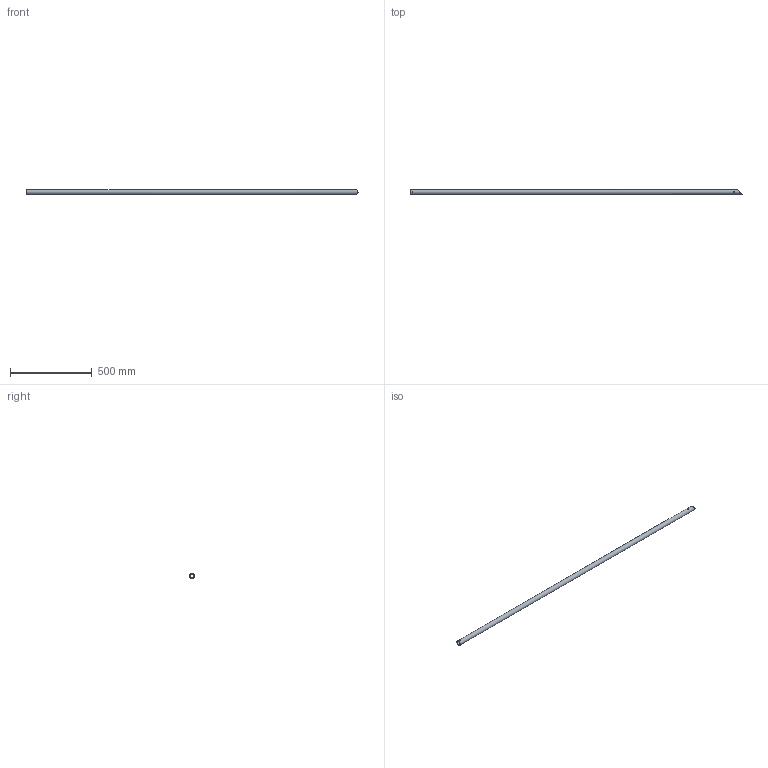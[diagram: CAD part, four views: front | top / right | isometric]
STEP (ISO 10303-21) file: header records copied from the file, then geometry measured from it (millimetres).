
FILE_DESCRIPTION(/* description */ (''),/* implementation_level */ '2;1');
FILE_NAME(/* name */ 'Pos107-Precisie buis 30x3-Aluminium-1st',/* time_stamp */ '2024-08-06T11:49:45+02:00',/* author */ (''),/* organization */ (''),/* preprocessor_version */ 'ST-DEVELOPER v16.5',/* originating_system */ 'HiCAD 2024 2901.2 Build 361',/* authorisation */ '');
FILE_SCHEMA (('AUTOMOTIVE_DESIGN { 1 0 10303 214 1 1 1 1 }'));
Length unit declared in the file: millimetre
Products named in the file (1): Pos107-Precisie buis 30x3-Aluminium-1st
Bounding box: 2035 x 30 x 30 mm (x, y, z)
Volume: 513909.2 mm3; surface area: 343315.4 mm2
Topology: 1 solids, 1 shells, 6 faces, 26 edges, 18 vertices
Faces by surface type: cylinder 4, plane 2
Full cylindrical faces by diameter (mm): 5 x2, 24 x1, 30 x1
Entity records: 274 total; most frequent: CARTESIAN_POINT 58, DIRECTION 20, PRESENTATION_STYLE_ASSIGNMENT 17, COLOUR_RGB 17, DRAUGHTING_PRE_DEFINED_CURVE_FONT 16, CURVE_STYLE 16, OVER_RIDING_STYLED_ITEM 16, ORIENTED_EDGE 16
